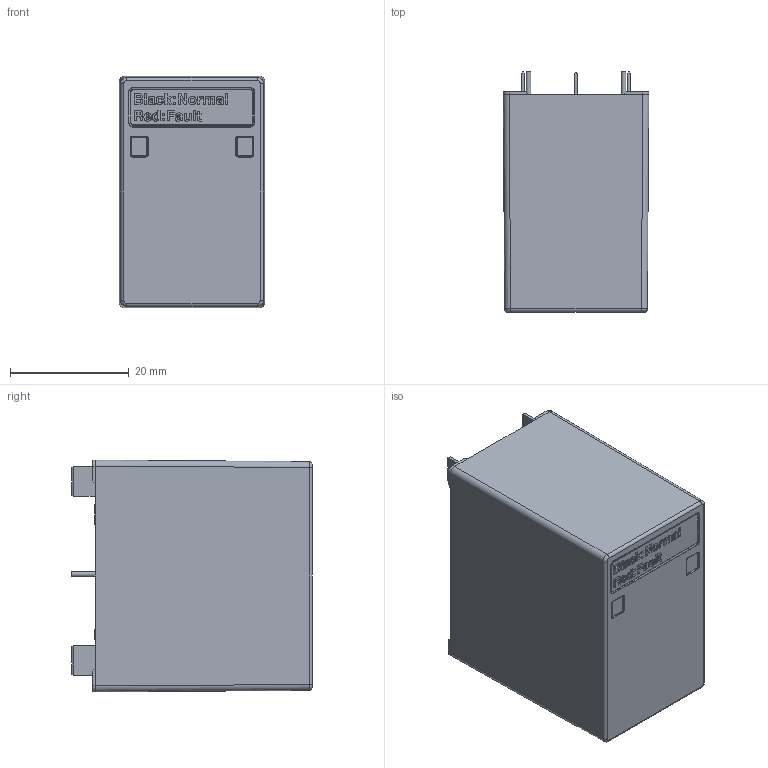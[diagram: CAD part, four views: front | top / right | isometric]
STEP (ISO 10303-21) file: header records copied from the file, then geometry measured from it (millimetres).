
FILE_DESCRIPTION(/* description */ ('Unknown'),/* implementation_level */ '2;1');
FILE_NAME(/* name */ 'SM15M230A203',/* time_stamp */ '2023-04-10T09:22:10+08:00',/* author */ ('Unknown'),/* organization */ ('Unknown'),/* preprocessor_version */ 'ST-DEVELOPER v16.7',/* originating_system */ 'Solid Edge',/* authorisation */ 'Unknown');
FILE_SCHEMA (('AUTOMOTIVE_DESIGN {1 0 10303 214 3 1 1}'));
Products named in the file (1): SM15M230A203
Bounding box: 24.5 x 40.4 x 39 mm (x, y, z)
Volume: 10927 mm3; surface area: 24870.1 mm2
Topology: 2 solids, 2 shells, 2869 faces, 7774 edges, 4882 vertices
Faces by surface type: plane 1465, cylinder 955, bspline 219, torus 97, cone 77, sphere 56
Full cylindrical faces by diameter (mm): 0.8 x2, 0.9 x2, 1.5 x5, 3 x5
Entity records: 93795 total; most frequent: CARTESIAN_POINT 22595, ORIENTED_EDGE 15426, DIRECTION 14230, EDGE_CURVE 7713, LINE 5010, VECTOR 5010, VERTEX_POINT 4856, AXIS2_PLACEMENT_3D 4610
